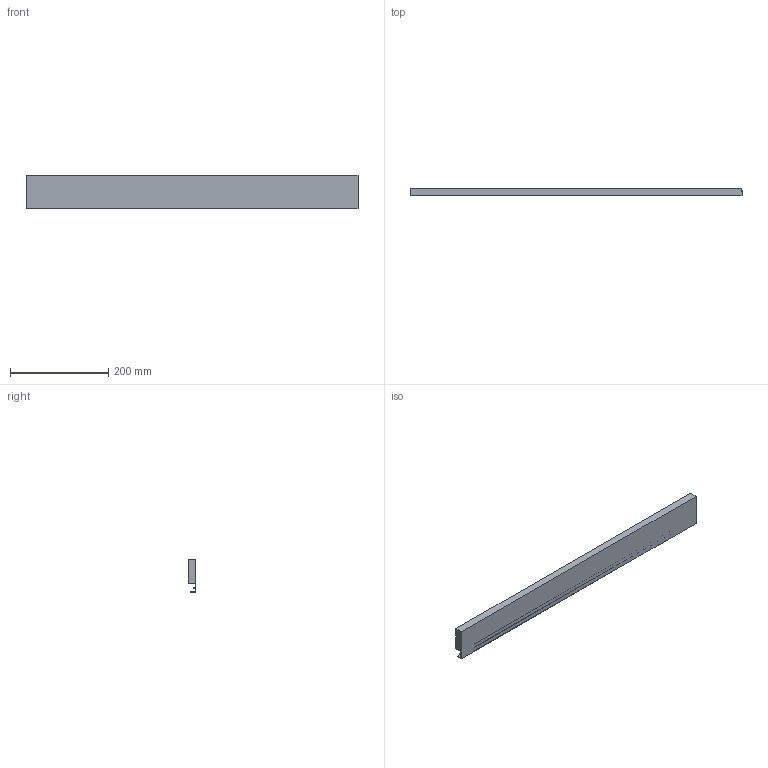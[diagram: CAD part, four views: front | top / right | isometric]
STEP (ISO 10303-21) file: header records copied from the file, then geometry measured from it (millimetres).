
FILE_DESCRIPTION (( 'STEP AP214' ), '1' );
FILE_NAME ('Innenschub-Blendenprofil_KAB800_S16.step', '2010-09-23T12:26:51', ( 'grass' ), ( '' ), 'SwSTEP 2.0', 'SolidWorks 2010', '' );
FILE_SCHEMA (( 'AUTOMOTIVE_DESIGN' ));
Length unit declared in the file: millimetre
Products named in the file (1): Innenschub-Blendenprofil_KAB800_S16
Bounding box: 677 x 15.9 x 67.6 mm (x, y, z)
Volume: 561341.2 mm3; surface area: 134520.4 mm2
Topology: 1 solids, 1 shells, 17 faces, 42 edges, 28 vertices
Faces by surface type: plane 15, cylinder 2
Entity records: 534 total; most frequent: CARTESIAN_POINT 88, ORIENTED_EDGE 84, DIRECTION 82, EDGE_CURVE 42, LINE 38, VECTOR 38, VERTEX_POINT 28, AXIS2_PLACEMENT_3D 22
